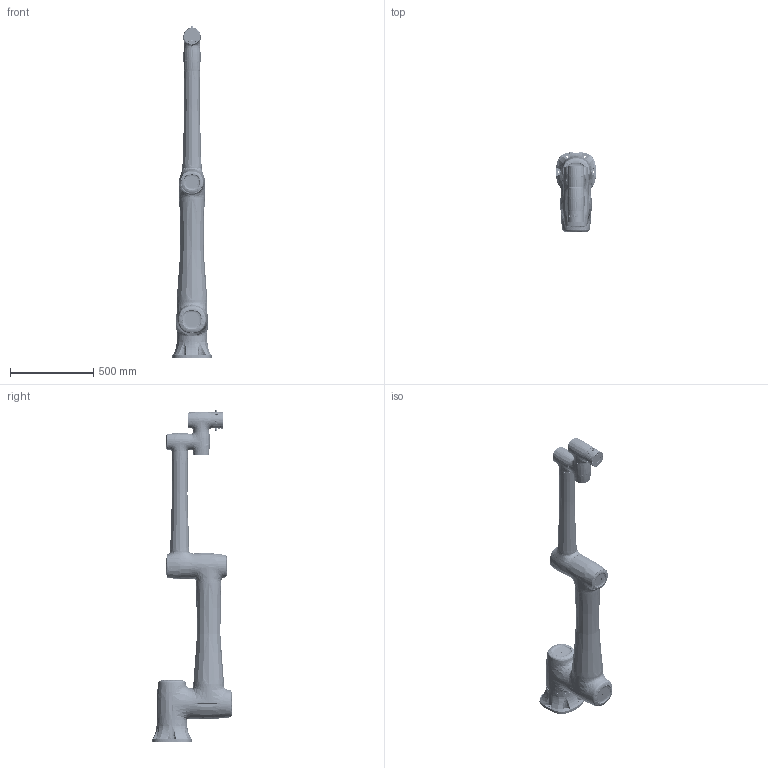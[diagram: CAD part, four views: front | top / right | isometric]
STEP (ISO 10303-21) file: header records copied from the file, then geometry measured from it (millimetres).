
FILE_DESCRIPTION((''),'2;1');
FILE_NAME('000_CR20_ASM_1_ASM','2023-01-13T18:34:11',('Administrator'),(''),'CREO PARAMETRIC BY PTC INC, 2017260','CREO PARAMETRIC BY PTC INC, 2017260','');
FILE_SCHEMA(('CONFIG_CONTROL_DESIGN'));
Products named in the file (64): 3201004087_1; 00_CR20_BASE_ASM_1_ASM; 3201004062_1; 3201004080_1; LHSG-40-XXX-C-III-SXT_AF0_ASM_1_ASM; 3202010568_1; 3202020388_1; 3201004071_1; 3202010569_1; 3202020389_1; _400001_ASM_1_ASM; 00_CR20_J1_ASM_1_ASM; LHSG-40-XXX-C-III-SXT_AF1_ASM_1_ASM; 3202020391_1; J2-400001_ASM_1_ASM; 00_CR20_J2_ASM_1_ASM; 00000_UPPERARM_20221129__1; 2201073000___1; M8__00_1; 2206043500__1; 40-1_0001_1; 00_CR10_UPPER-ARM_ASM_1_ASM; 3203010130_1; 3201003125_1; LHSG-32-120-C-I_ASM_1_ASM; 2206044700_1; 2206043500_1; 2206043000_1; 2206043800_1; 2206043200_1; _320001_1; 00_CR20_J3_ASM_1_ASM; 32_CONNECTOR_SHELL_20221129__1; 32_CONNECTOR_COVER2_20221129__1; 32_CONNECTOR_COVER1_20221129__1; 00000_LOWERARM_20221129__1; _CR20_0002_1; 2206041100__000_1; 00_CR20_LOWER-ARM_ASM_1_ASM; 20-0001_1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
Assembly tree (100 placements, depth 4):
  000_CR20_ASM_1_ASM
    00_CR20_BASE_ASM_1_ASM
      3201004087_1
    00_CR20_J1_ASM_1_ASM
      3201004062_1
      LHSG-40-XXX-C-III-SXT_AF0_ASM_1_ASM
        3201004080_1
      3202010568_1
      3202020388_1
      _400001_ASM_1_ASM
        3201004071_1
        3202010569_1
        3202020389_1
    00_CR20_J2_ASM_1_ASM
      3201004062_1
      LHSG-40-XXX-C-III-SXT_AF1_ASM_1_ASM
        3201004080_1
      3202010568_1
      3202020388_1
      J2-400001_ASM_1_ASM
        3201004071_1
        3202020391_1
    00_CR10_UPPER-ARM_ASM_1_ASM
      00000_UPPERARM_20221129__1
      2201073000___1  x10
      M8__00_1  x10
      2206043500__1
      40-1_0001_1
    00_CR20_J3_ASM_1_ASM
      3203010130_1
      LHSG-32-120-C-I_ASM_1_ASM
        3201003125_1
      2206044700_1
      2206043500_1
      2206043000_1
      2206043800_1
      2206043200_1
      _320001_1
    00_CR20_LOWER-ARM_ASM_1_ASM
      32_CONNECTOR_SHELL_20221129__1
      32_CONNECTOR_COVER2_20221129__1
      32_CONNECTOR_COVER1_20221129__1
      00000_LOWERARM_20221129__1
      _CR20_0002_1
      2206041100__000_1
    00_CR20-J4_ASM_1_ASM
      20-_AF0_ASM_1_ASM
        20-0001_1
      20__AF0000_ASM_1_ASM
        _200001_1
      2206042100_1
      2206041000_0001_1
      2206041100_000_1
      2206041400_0001_1
    00_CR20-J5_ASM_1_ASM
      20-_AF1_ASM_1_ASM
        20-0001_1
      20__AF1000_ASM_1_ASM
        _200001_1
      2206042100_1
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Bounding box: 240 x 480.13 x 1992 mm (x, y, z)
Volume: 29013115.2 mm3; surface area: 3432384.9 mm2
Topology: 79 solids, 388 shells, 4661 faces, 12076 edges, 8083 vertices
Faces by surface type: cylinder 1357, plane 1271, bspline 978, extrusion 607, cone 347, torus 63, sphere 38
Entity records: 162991 total; most frequent: CARTESIAN_POINT 96611, ORIENTED_EDGE 14064, DIRECTION 11460, EDGE_CURVE 7412, VERTEX_POINT 4964, AXIS2_PLACEMENT_3D 4365, EDGE_LOOP 3267, B_SPLINE_CURVE_WITH_KNOTS 3228
